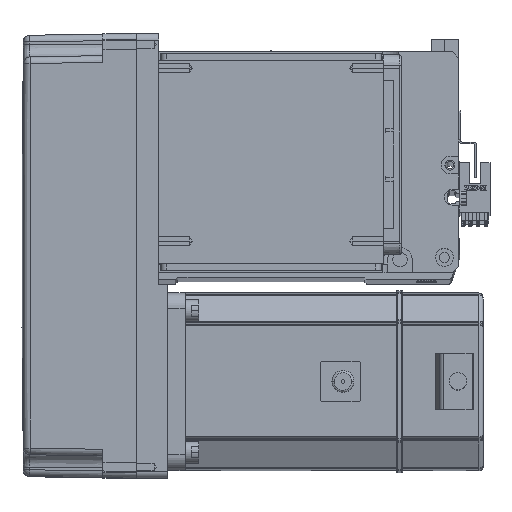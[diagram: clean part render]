
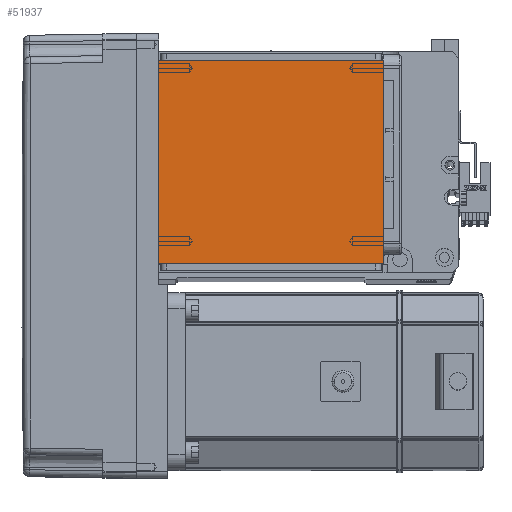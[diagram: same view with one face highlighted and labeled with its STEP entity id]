
A CAD part, top view. The second image highlights one B-rep face of the part: STEP entity #51937.
In plain terms, the highlighted planar face has unit normal (0, 0, 1).
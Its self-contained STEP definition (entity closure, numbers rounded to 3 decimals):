
#5467 = FACE_OUTER_BOUND ( 'NONE', #35926, .T. ) ;
#6663 = CARTESIAN_POINT ( 'NONE',  ( -50.5, 20., 115. ) ) ;
#10623 = EDGE_CURVE ( 'NONE', #26786, #41173, #42338, .T. ) ;
#11899 = ORIENTED_EDGE ( 'NONE', *, *, #32736, .F. ) ;
#13579 = PLANE ( 'NONE',  #37669 ) ;
#18418 = CARTESIAN_POINT ( 'NONE',  ( -50.5, 122., 115. ) ) ;
#22734 = DIRECTION ( 'NONE',  ( 0., 0., 1. ) ) ;
#22841 = DIRECTION ( 'NONE',  ( -1., 0., 0. ) ) ;
#23452 = LINE ( 'NONE', #18418, #41139 ) ;
#23471 = CARTESIAN_POINT ( 'NONE',  ( 50.5, 20., 115. ) ) ;
#26110 = DIRECTION ( 'NONE',  ( 0., 1., 0. ) ) ;
#26314 = ORIENTED_EDGE ( 'NONE', *, *, #10623, .T. ) ;
#26523 = CARTESIAN_POINT ( 'NONE',  ( -50.5, 111.5, 115. ) ) ;
#26786 = VERTEX_POINT ( 'NONE', #23471 ) ;
#28083 = VECTOR ( 'NONE', #28763, 1000. ) ;
#28279 = DIRECTION ( 'NONE',  ( 0., -1., 0. ) ) ;
#28763 = DIRECTION ( 'NONE',  ( 1., 0., 0. ) ) ;
#30175 = LINE ( 'NONE', #55978, #28083 ) ;
#30385 = VERTEX_POINT ( 'NONE', #6663 ) ;
#32736 = EDGE_CURVE ( 'NONE', #43703, #41173, #30175, .T. ) ;
#35369 = ORIENTED_EDGE ( 'NONE', *, *, #53592, .F. ) ;
#35496 = EDGE_CURVE ( 'NONE', #43703, #30385, #23452, .T. ) ;
#35926 = EDGE_LOOP ( 'NONE', ( #11899, #37029, #35369, #26314 ) ) ;
#36167 = CARTESIAN_POINT ( 'NONE',  ( 0., 0., 115. ) ) ;
#37029 = ORIENTED_EDGE ( 'NONE', *, *, #35496, .T. ) ;
#37669 = AXIS2_PLACEMENT_3D ( 'NONE', #36167, #22734, #50274 ) ;
#39203 = CARTESIAN_POINT ( 'NONE',  ( 50.5, 111.5, 115. ) ) ;
#39726 = CARTESIAN_POINT ( 'NONE',  ( 50.5, 122., 115. ) ) ;
#41139 = VECTOR ( 'NONE', #28279, 1000. ) ;
#41173 = VERTEX_POINT ( 'NONE', #39203 ) ;
#42338 = LINE ( 'NONE', #39726, #50206 ) ;
#43703 = VERTEX_POINT ( 'NONE', #26523 ) ;
#46467 = VECTOR ( 'NONE', #22841, 1000. ) ;
#50192 = CARTESIAN_POINT ( 'NONE',  ( -70.004, 20., 115. ) ) ;
#50206 = VECTOR ( 'NONE', #26110, 1000. ) ;
#50274 = DIRECTION ( 'NONE',  ( 1., 0., 0. ) ) ;
#51937 = ADVANCED_FACE ( 'NONE', ( #5467 ), #13579, .T. ) ;
#53592 = EDGE_CURVE ( 'NONE', #26786, #30385, #55766, .T. ) ;
#55766 = LINE ( 'NONE', #50192, #46467 ) ;
#55978 = CARTESIAN_POINT ( 'NONE',  ( -70.004, 111.5, 115. ) ) ;
